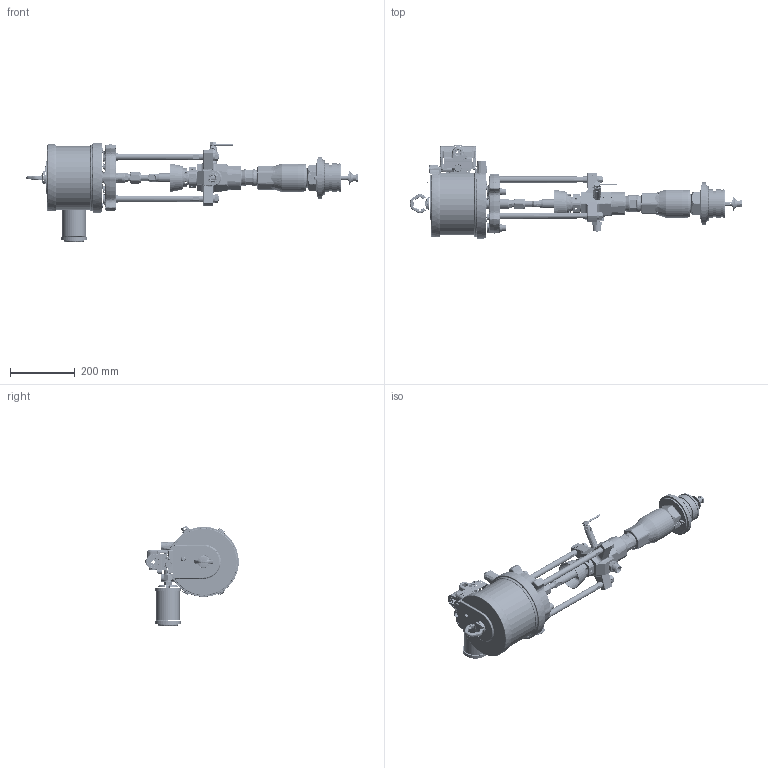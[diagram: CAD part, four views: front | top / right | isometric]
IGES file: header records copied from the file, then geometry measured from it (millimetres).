
Start section:  PTC IGES file: p38lcs-en-e.igs
Global section: file name: p38lcs-en-e.igs; native system: Creo Parametric by PTC Inc.; preprocessor: 2019030; author: qusrh3; organization: Unknown; date: 20200528.135408; units: inch
Bounding box: 1028.57 x 290.03 x 311.92 mm (x, y, z)
Surface area: 960738.6 mm2 (no closed solid volume)
Topology: 0 solids, 0 shells, 3271 faces, 18689 edges, 18671 vertices
Faces by surface type: revolution 1839, bspline 1432
